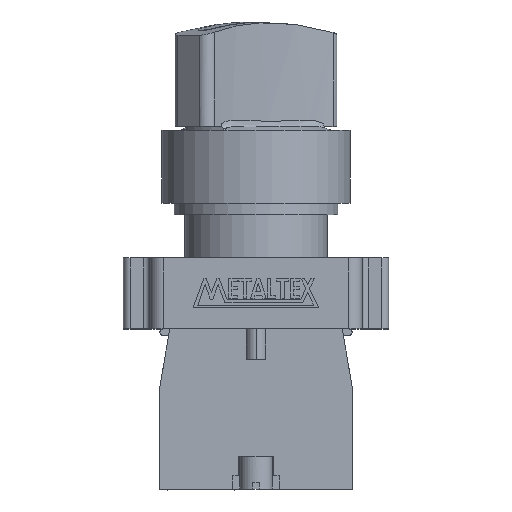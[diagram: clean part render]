
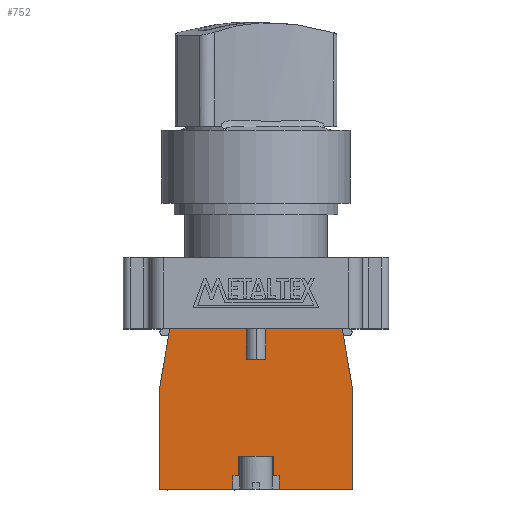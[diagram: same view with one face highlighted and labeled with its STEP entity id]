
A CAD part, top view. The second image highlights one B-rep face of the part: STEP entity #752.
In plain terms, the highlighted planar face has unit normal (0, 0, 1).
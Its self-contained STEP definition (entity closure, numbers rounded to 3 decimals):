
#752 = ADVANCED_FACE ( 'NONE', ( #7033 ), #10595, .T. ) ;
#3878 = LINE ( 'NONE', #3879, #8423 ) ;
#3879 = CARTESIAN_POINT ( 'NONE',  ( 14.5, 15.5, 7.45 ) ) ;
#3880 = DIRECTION ( 'NONE',  ( -0.17, 0.985, 0. ) ) ;
#3899 = LINE ( 'NONE', #3900, #8351 ) ;
#3900 = CARTESIAN_POINT ( 'NONE',  ( 13., 24.2, 7.45 ) ) ;
#3901 = DIRECTION ( 'NONE',  ( -1., 0., 0. ) ) ;
#3911 = LINE ( 'NONE', #3912, #8326 ) ;
#3912 = CARTESIAN_POINT ( 'NONE',  ( 13., 24.2, 7.45 ) ) ;
#3913 = DIRECTION ( 'NONE',  ( -1., 0., 0. ) ) ;
#4013 = LINE ( 'NONE', #4014, #8144 ) ;
#4014 = CARTESIAN_POINT ( 'NONE',  ( 0., 5., 7.45 ) ) ;
#4015 = DIRECTION ( 'NONE',  ( -1., 0., 0. ) ) ;
#4031 = LINE ( 'NONE', #4032, #8521 ) ;
#4032 = CARTESIAN_POINT ( 'NONE',  ( 0., 19.6, 7.45 ) ) ;
#4033 = DIRECTION ( 'NONE',  ( -1., 0., 0. ) ) ;
#4053 = LINE ( 'NONE', #4054, #8254 ) ;
#4054 = CARTESIAN_POINT ( 'NONE',  ( -14.5, 15.5, 7.45 ) ) ;
#4055 = DIRECTION ( 'NONE',  ( 0., -1., 0. ) ) ;
#4470 = LINE ( 'NONE', #4471, #8245 ) ;
#4471 = CARTESIAN_POINT ( 'NONE',  ( -14.5, 0., 7.45 ) ) ;
#4472 = DIRECTION ( 'NONE',  ( 1., 0., 0. ) ) ;
#4479 = LINE ( 'NONE', #4480, #8313 ) ;
#4480 = CARTESIAN_POINT ( 'NONE',  ( -14.5, 0., 7.45 ) ) ;
#4481 = DIRECTION ( 'NONE',  ( 1., 0., 0. ) ) ;
#4593 = LINE ( 'NONE', #4594, #8327 ) ;
#4594 = CARTESIAN_POINT ( 'NONE',  ( 14.5, 0., 7.45 ) ) ;
#4595 = DIRECTION ( 'NONE',  ( 0., 1., 0. ) ) ;
#4605 = LINE ( 'NONE', #4606, #8231 ) ;
#4606 = CARTESIAN_POINT ( 'NONE',  ( -13., 24.2, 7.45 ) ) ;
#4607 = DIRECTION ( 'NONE',  ( -0.17, -0.985, 0. ) ) ;
#4608 = LINE ( 'NONE', #4609, #8229 ) ;
#4609 = CARTESIAN_POINT ( 'NONE',  ( -1.5, 19.6, 7.45 ) ) ;
#4610 = DIRECTION ( 'NONE',  ( 0., 1., 0. ) ) ;
#4611 = LINE ( 'NONE', #4612, #8211 ) ;
#4612 = CARTESIAN_POINT ( 'NONE',  ( -3.5, 0., 7.45 ) ) ;
#4613 = DIRECTION ( 'NONE',  ( 0., 1., 0. ) ) ;
#4614 = LINE ( 'NONE', #4615, #8215 ) ;
#4615 = CARTESIAN_POINT ( 'NONE',  ( 0., 2., 7.45 ) ) ;
#4616 = DIRECTION ( 'NONE',  ( 1., 0., 0. ) ) ;
#4617 = LINE ( 'NONE', #4618, #8216 ) ;
#4618 = CARTESIAN_POINT ( 'NONE',  ( -2.6, 0., 7.45 ) ) ;
#4619 = DIRECTION ( 'NONE',  ( 0., 1., 0. ) ) ;
#4620 = LINE ( 'NONE', #4621, #8340 ) ;
#4621 = CARTESIAN_POINT ( 'NONE',  ( 2.6, 0., 7.45 ) ) ;
#4622 = DIRECTION ( 'NONE',  ( 0., 1., 0. ) ) ;
#4623 = LINE ( 'NONE', #4624, #8334 ) ;
#4624 = CARTESIAN_POINT ( 'NONE',  ( 0., 2., 7.45 ) ) ;
#4625 = DIRECTION ( 'NONE',  ( 1., 0., 0. ) ) ;
#4626 = LINE ( 'NONE', #4627, #8369 ) ;
#4627 = CARTESIAN_POINT ( 'NONE',  ( 3.5, 0., 7.45 ) ) ;
#4628 = DIRECTION ( 'NONE',  ( 0., 1., 0. ) ) ;
#4629 = LINE ( 'NONE', #4630, #8368 ) ;
#4630 = CARTESIAN_POINT ( 'NONE',  ( 1.5, 19.6, 7.45 ) ) ;
#4631 = DIRECTION ( 'NONE',  ( 0., 1., 0. ) ) ;
#5706 = EDGE_LOOP ( 'NONE', ( #8582, #8584, #8581, #8583, #8585, #8586, #8588, #8587, #8589, #8590, #8592, #8591, #8593, #8595, #8594, #8596, #8597, #8599 ) ) ;
#7010 = AXIS2_PLACEMENT_3D ( 'NONE', #10605, #10606, #10607 ) ;
#7033 = FACE_OUTER_BOUND ( 'NONE', #5706, .T. ) ;
#7199 = VERTEX_POINT ( 'NONE', #12264 ) ;
#7200 = VERTEX_POINT ( 'NONE', #12265 ) ;
#7201 = VERTEX_POINT ( 'NONE', #12266 ) ;
#7202 = VERTEX_POINT ( 'NONE', #12267 ) ;
#7232 = VERTEX_POINT ( 'NONE', #12295 ) ;
#7238 = VERTEX_POINT ( 'NONE', #12298 ) ;
#7239 = VERTEX_POINT ( 'NONE', #12299 ) ;
#7292 = VERTEX_POINT ( 'NONE', #12332 ) ;
#7309 = VERTEX_POINT ( 'NONE', #12343 ) ;
#7313 = VERTEX_POINT ( 'NONE', #12346 ) ;
#7320 = VERTEX_POINT ( 'NONE', #12350 ) ;
#7335 = VERTEX_POINT ( 'NONE', #12362 ) ;
#7364 = VERTEX_POINT ( 'NONE', #12385 ) ;
#7367 = VERTEX_POINT ( 'NONE', #12388 ) ;
#7386 = VERTEX_POINT ( 'NONE', #12398 ) ;
#7401 = VERTEX_POINT ( 'NONE', #12407 ) ;
#7404 = VERTEX_POINT ( 'NONE', #12410 ) ;
#7405 = VERTEX_POINT ( 'NONE', #12411 ) ;
#8144 = VECTOR ( 'NONE', #4015, 1000. ) ;
#8211 = VECTOR ( 'NONE', #4613, 1000. ) ;
#8215 = VECTOR ( 'NONE', #4616, 1000. ) ;
#8216 = VECTOR ( 'NONE', #4619, 1000. ) ;
#8229 = VECTOR ( 'NONE', #4610, 1000. ) ;
#8231 = VECTOR ( 'NONE', #4607, 1000. ) ;
#8245 = VECTOR ( 'NONE', #4472, 1000. ) ;
#8254 = VECTOR ( 'NONE', #4055, 1000. ) ;
#8313 = VECTOR ( 'NONE', #4481, 1000. ) ;
#8326 = VECTOR ( 'NONE', #3913, 1000. ) ;
#8327 = VECTOR ( 'NONE', #4595, 1000. ) ;
#8334 = VECTOR ( 'NONE', #4625, 1000. ) ;
#8340 = VECTOR ( 'NONE', #4622, 1000. ) ;
#8351 = VECTOR ( 'NONE', #3901, 1000. ) ;
#8368 = VECTOR ( 'NONE', #4631, 1000. ) ;
#8369 = VECTOR ( 'NONE', #4628, 1000. ) ;
#8423 = VECTOR ( 'NONE', #3880, 1000. ) ;
#8521 = VECTOR ( 'NONE', #4033, 1000. ) ;
#8581 = ORIENTED_EDGE ( 'NONE', *, *, #13530, .T. ) ;
#8582 = ORIENTED_EDGE ( 'NONE', *, *, #13531, .T. ) ;
#8583 = ORIENTED_EDGE ( 'NONE', *, *, #13420, .T. ) ;
#8584 = ORIENTED_EDGE ( 'NONE', *, *, #13369, .T. ) ;
#8585 = ORIENTED_EDGE ( 'NONE', *, *, #13488, .T. ) ;
#8586 = ORIENTED_EDGE ( 'NONE', *, *, #13532, .T. ) ;
#8587 = ORIENTED_EDGE ( 'NONE', *, *, #13534, .T. ) ;
#8588 = ORIENTED_EDGE ( 'NONE', *, *, #13533, .T. ) ;
#8589 = ORIENTED_EDGE ( 'NONE', *, *, #13407, .F. ) ;
#8590 = ORIENTED_EDGE ( 'NONE', *, *, #13535, .F. ) ;
#8591 = ORIENTED_EDGE ( 'NONE', *, *, #13537, .F. ) ;
#8592 = ORIENTED_EDGE ( 'NONE', *, *, #13536, .T. ) ;
#8593 = ORIENTED_EDGE ( 'NONE', *, *, #13485, .T. ) ;
#8594 = ORIENTED_EDGE ( 'NONE', *, *, #13362, .T. ) ;
#8595 = ORIENTED_EDGE ( 'NONE', *, *, #13526, .T. ) ;
#8596 = ORIENTED_EDGE ( 'NONE', *, *, #13373, .T. ) ;
#8597 = ORIENTED_EDGE ( 'NONE', *, *, #13538, .F. ) ;
#8599 = ORIENTED_EDGE ( 'NONE', *, *, #13413, .T. ) ;
#10595 = PLANE ( 'NONE',  #7010 ) ;
#10605 = CARTESIAN_POINT ( 'NONE',  ( 0., 0., 7.45 ) ) ;
#10606 = DIRECTION ( 'NONE',  ( 0., 0., 1. ) ) ;
#10607 = DIRECTION ( 'NONE',  ( 1., 0., 0. ) ) ;
#12264 = CARTESIAN_POINT ( 'NONE',  ( 3.5, 2., 7.45 ) ) ;
#12265 = CARTESIAN_POINT ( 'NONE',  ( 2.6, 2., 7.45 ) ) ;
#12266 = CARTESIAN_POINT ( 'NONE',  ( -2.6, 2., 7.45 ) ) ;
#12267 = CARTESIAN_POINT ( 'NONE',  ( -3.5, 2., 7.45 ) ) ;
#12295 = CARTESIAN_POINT ( 'NONE',  ( -3.5, 0., 7.45 ) ) ;
#12298 = CARTESIAN_POINT ( 'NONE',  ( 14.5, 0., 7.45 ) ) ;
#12299 = CARTESIAN_POINT ( 'NONE',  ( 3.5, 0., 7.45 ) ) ;
#12332 = CARTESIAN_POINT ( 'NONE',  ( 1.5, 19.6, 7.45 ) ) ;
#12343 = CARTESIAN_POINT ( 'NONE',  ( -1.5, 19.6, 7.45 ) ) ;
#12346 = CARTESIAN_POINT ( 'NONE',  ( -14.5, 0., 7.45 ) ) ;
#12350 = CARTESIAN_POINT ( 'NONE',  ( 1.5, 24.2, 7.45 ) ) ;
#12362 = CARTESIAN_POINT ( 'NONE',  ( -14.5, 15.5, 7.45 ) ) ;
#12385 = CARTESIAN_POINT ( 'NONE',  ( -2.6, 5., 7.45 ) ) ;
#12388 = CARTESIAN_POINT ( 'NONE',  ( 2.6, 5., 7.45 ) ) ;
#12398 = CARTESIAN_POINT ( 'NONE',  ( -1.5, 24.2, 7.45 ) ) ;
#12407 = CARTESIAN_POINT ( 'NONE',  ( -13., 24.2, 7.45 ) ) ;
#12410 = CARTESIAN_POINT ( 'NONE',  ( 14.5, 15.5, 7.45 ) ) ;
#12411 = CARTESIAN_POINT ( 'NONE',  ( 13., 24.2, 7.45 ) ) ;
#13362 = EDGE_CURVE ( 'NONE', #7404, #7405, #3878, .T. ) ;
#13369 = EDGE_CURVE ( 'NONE', #7386, #7401, #3899, .T. ) ;
#13373 = EDGE_CURVE ( 'NONE', #7405, #7320, #3911, .T. ) ;
#13407 = EDGE_CURVE ( 'NONE', #7367, #7364, #4013, .T. ) ;
#13413 = EDGE_CURVE ( 'NONE', #7292, #7309, #4031, .T. ) ;
#13420 = EDGE_CURVE ( 'NONE', #7335, #7313, #4053, .T. ) ;
#13485 = EDGE_CURVE ( 'NONE', #7239, #7238, #4470, .T. ) ;
#13488 = EDGE_CURVE ( 'NONE', #7313, #7232, #4479, .T. ) ;
#13526 = EDGE_CURVE ( 'NONE', #7238, #7404, #4593, .T. ) ;
#13530 = EDGE_CURVE ( 'NONE', #7401, #7335, #4605, .T. ) ;
#13531 = EDGE_CURVE ( 'NONE', #7309, #7386, #4608, .T. ) ;
#13532 = EDGE_CURVE ( 'NONE', #7232, #7202, #4611, .T. ) ;
#13533 = EDGE_CURVE ( 'NONE', #7202, #7201, #4614, .T. ) ;
#13534 = EDGE_CURVE ( 'NONE', #7201, #7364, #4617, .T. ) ;
#13535 = EDGE_CURVE ( 'NONE', #7200, #7367, #4620, .T. ) ;
#13536 = EDGE_CURVE ( 'NONE', #7200, #7199, #4623, .T. ) ;
#13537 = EDGE_CURVE ( 'NONE', #7239, #7199, #4626, .T. ) ;
#13538 = EDGE_CURVE ( 'NONE', #7292, #7320, #4629, .T. ) ;
